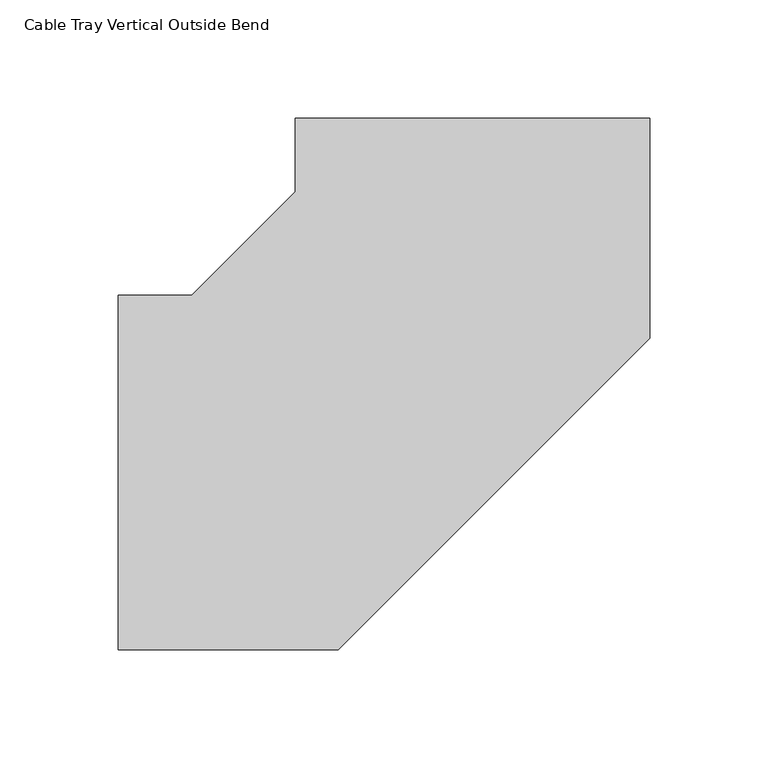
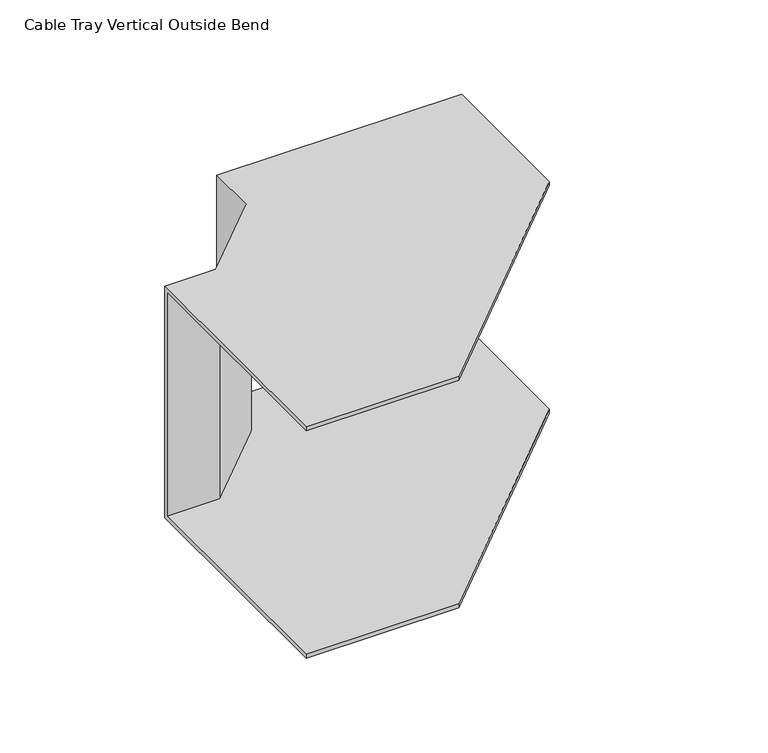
"""IFC4 building model written with IfcOpenShell, lengths in millimetres: cable carrier fitting geometry, Cable Tray Vertical Outside Bend : ELEC_ELV_TKG_N2402."""

from ifc_helpers import new_model, si_unit, origin, place, context, project, spatial, faceted_brep, source, transform, mapped, element, save


def cable_tray_vertical_outside_bend_2898f529(model_context):
    return source(origin(), model_context, "Body", "Brep", [
        faceted_brep([(-150.0007619, -75.0, 75.0), (-150.0007619, 75.0, 75.0), (-150.0007619, 75.0, -75.0), (-150.0007619, -75.0, -75.0), (-150.0007619, -75.0, -72.46), (-150.0007619, 72.46, -72.46), (-150.0007619, 72.46, 72.46), (-150.0007619, -75.0, 72.46), (74.9992381, 150.0011429, 75.0), (74.9992381, 150.0011429, 72.46), (-72.4607619, 150.0003939, 72.46), (-72.4607619, 150.0003939, -72.46), (74.9992381, 150.0011429, -72.46), (74.9992381, 150.0011429, -75.0), (-75.0007619, 150.000381, -75.0), (-75.0007619, 150.000381, 75.0), (-56.8023756, -75.0, 75.0), (74.9997115, 56.8027566, 75.0), (-75.0006041, 118.9342522, 75.0), (-118.9346332, 75.0, 75.0), (-118.9346332, 75.0, -75.0), (-75.0006041, 118.9342522, -75.0), (74.9997115, 56.8027566, -75.0), (-56.8023756, -75.0, -75.0), (-56.8023756, -75.0, -72.46), (74.9997115, 56.8027566, -72.46), (-72.4605988, 117.8821589, -72.46), (-117.8825269, 72.46, -72.46), (-117.8825269, 72.46, 72.46), (-72.4605988, 117.8821589, 72.46), (74.9997115, 56.8027566, 72.46), (-56.8023756, -75.0, 72.46)], [[[0, 1, 2, 3, 4, 5, 6, 7]], [[8, 9, 10, 11, 12, 13, 14, 15]], [[1, 0, 16, 17, 8, 15, 18, 19]], [[2, 1, 19, 20]], [[3, 2, 20, 21, 14, 13, 22, 23]], [[4, 3, 23, 24]], [[5, 4, 24, 25, 12, 11, 26, 27]], [[6, 5, 27, 28]], [[7, 6, 28, 29, 10, 9, 30, 31]], [[0, 7, 31, 16]], [[20, 19, 18, 21]], [[24, 23, 22, 25]], [[28, 27, 26, 29]], [[16, 31, 30, 17]], [[21, 18, 15, 14]], [[25, 22, 13, 12]], [[29, 26, 11, 10]], [[17, 30, 9, 8]]]),
    ])


if __name__ == "__main__":
    model = new_model("IFC4")
    model_context = context("Model", 3, world=origin())
    ifc_project = project(units=[si_unit("LENGTHUNIT", "METRE", prefix="MILLI")], contexts=[model_context])
    site = spatial("IfcSite", under=ifc_project)
    building = spatial("IfcBuilding", under=site)
    placement = place(None, origin())
    cable_tray_vertical_outside_bend_shape = cable_tray_vertical_outside_bend_2898f529(model_context)
    element("IfcCableCarrierFitting", 1, ObjectType="Cable Tray Vertical Outside Bend : ELEC_ELV_TKG_N2402", at=placement, inside=building, context=model_context, shape_type="MappedRepresentation", body=[
        mapped(cable_tray_vertical_outside_bend_shape, transform((0.0, 0.0, 0.0), x_axis=(1.0, 0.0, 0.0), y_axis=(0.0, 1.0, 0.0), z_axis=(0.0, 0.0, 1.0))),
    ])
    save(model, "model.ifc")
